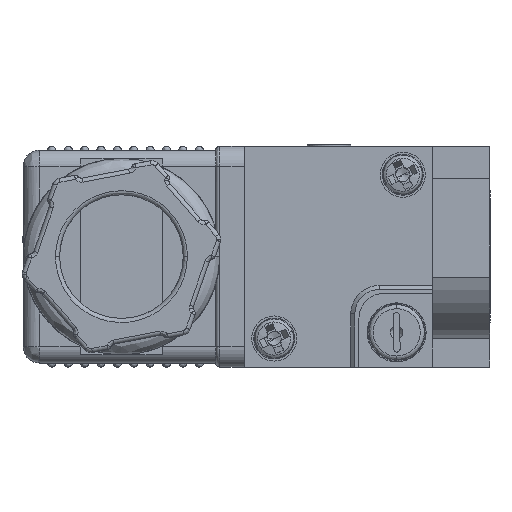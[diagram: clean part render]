
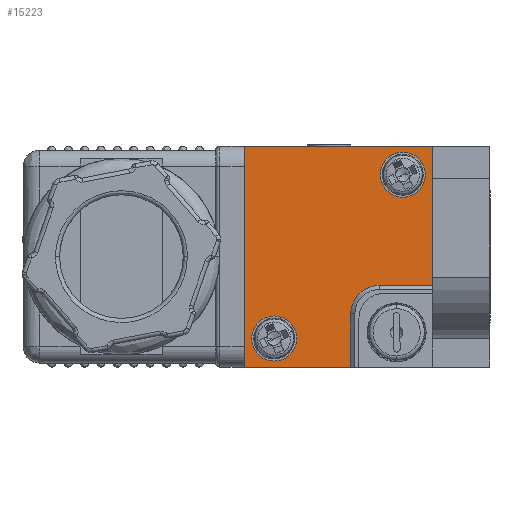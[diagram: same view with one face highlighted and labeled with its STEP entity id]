
A CAD part, left-side view. The second image highlights one B-rep face of the part: STEP entity #15223.
In plain terms, the highlighted planar face has unit normal (-1, 0, 0) as drawn and (0, 0, 1) by its records, which use the part's own axes.
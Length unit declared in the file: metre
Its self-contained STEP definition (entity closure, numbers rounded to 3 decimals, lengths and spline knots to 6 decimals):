
#115 = CARTESIAN_POINT ( 'NONE',  ( -0.00725, 0.04035, 0.006 ) ) ;
#187 = VECTOR ( 'NONE', #599, 1. ) ;
#599 = DIRECTION ( 'NONE',  ( 0., -1., 0. ) ) ;
#649 = CIRCLE ( 'NONE', #15646, 0.0035 ) ;
#650 = CARTESIAN_POINT ( 'NONE',  ( 0.01275, 0.02465, 0.006 ) ) ;
#827 = CARTESIAN_POINT ( 'NONE',  ( -0.007, 0.0275, 0.006 ) ) ;
#1175 = CIRCLE ( 'NONE', #23378, 0.00275 ) ;
#1239 = PLANE ( 'NONE',  #5194 ) ;
#1345 = LINE ( 'NONE', #6920, #6182 ) ;
#1400 = AXIS2_PLACEMENT_3D ( 'NONE', #11898, #26417, #14001 ) ;
#1612 = CARTESIAN_POINT ( 'NONE',  ( 0., 0.044, 0.006 ) ) ;
#1720 = EDGE_CURVE ( 'NONE', #21377, #8494, #6357, .T. ) ;
#2159 = AXIS2_PLACEMENT_3D ( 'NONE', #15428, #15483, #15515 ) ;
#2773 = EDGE_CURVE ( 'NONE', #8494, #21377, #1175, .T. ) ;
#2797 = VERTEX_POINT ( 'NONE', #17983 ) ;
#2908 = DIRECTION ( 'NONE',  ( 0., 1., 0. ) ) ;
#2999 = EDGE_CURVE ( 'NONE', #5146, #19647, #20661, .T. ) ;
#3331 = DIRECTION ( 'NONE',  ( 1., 0., 0. ) ) ;
#4411 = EDGE_CURVE ( 'NONE', #18673, #2797, #7284, .T. ) ;
#5146 = VERTEX_POINT ( 'NONE', #22956 ) ;
#5194 = AXIS2_PLACEMENT_3D ( 'NONE', #19854, #15742, #3331 ) ;
#5304 = ORIENTED_EDGE ( 'NONE', *, *, #2773, .T. ) ;
#5440 = DIRECTION ( 'NONE',  ( 1., 0., 0. ) ) ;
#5529 = FACE_BOUND ( 'NONE', #5605, .T. ) ;
#5578 = VERTEX_POINT ( 'NONE', #23132 ) ;
#5605 = EDGE_LOOP ( 'NONE', ( #13662, #10501 ) ) ;
#5617 = VECTOR ( 'NONE', #26043, 1. ) ;
#5644 = LINE ( 'NONE', #23462, #187 ) ;
#5708 = ORIENTED_EDGE ( 'NONE', *, *, #11292, .T. ) ;
#5789 = CARTESIAN_POINT ( 'NONE',  ( -0.0135, 0.031, 0.006 ) ) ;
#5881 = VERTEX_POINT ( 'NONE', #25261 ) ;
#6182 = VECTOR ( 'NONE', #15390, 1. ) ;
#6320 = CARTESIAN_POINT ( 'NONE',  ( -0.0135, 0.044, 0.006 ) ) ;
#6357 = CIRCLE ( 'NONE', #17058, 0.00275 ) ;
#6510 = CARTESIAN_POINT ( 'NONE',  ( 0.01, 0.02465, 0.006 ) ) ;
#6867 = DIRECTION ( 'NONE',  ( 0., 0., -1. ) ) ;
#6920 = CARTESIAN_POINT ( 'NONE',  ( 0., 0.021, 0.006 ) ) ;
#7043 = ORIENTED_EDGE ( 'NONE', *, *, #18013, .T. ) ;
#7221 = EDGE_CURVE ( 'NONE', #5578, #5881, #5644, .T. ) ;
#7284 = CIRCLE ( 'NONE', #2159, 0.00275 ) ;
#7319 = CARTESIAN_POINT ( 'NONE',  ( 0., 0.031, 0.006 ) ) ;
#7505 = CARTESIAN_POINT ( 'NONE',  ( 0.00725, 0.02465, 0.006 ) ) ;
#7935 = EDGE_CURVE ( 'NONE', #10463, #14351, #11193, .T. ) ;
#8494 = VERTEX_POINT ( 'NONE', #650 ) ;
#9226 = ORIENTED_EDGE ( 'NONE', *, *, #7935, .T. ) ;
#10223 = EDGE_LOOP ( 'NONE', ( #7043, #5708, #9226, #14463, #13293, #23463, #23635 ) ) ;
#10365 = LINE ( 'NONE', #1612, #17191 ) ;
#10463 = VERTEX_POINT ( 'NONE', #5789 ) ;
#10501 = ORIENTED_EDGE ( 'NONE', *, *, #15843, .F. ) ;
#10777 = CARTESIAN_POINT ( 'NONE',  ( -0.0135, 0.0325, 0.006 ) ) ;
#11088 = FACE_BOUND ( 'NONE', #20867, .T. ) ;
#11193 = LINE ( 'NONE', #7319, #5617 ) ;
#11292 = EDGE_CURVE ( 'NONE', #16013, #10463, #24212, .T. ) ;
#11898 = CARTESIAN_POINT ( 'NONE',  ( -0.01, 0.04035, 0.006 ) ) ;
#13293 = ORIENTED_EDGE ( 'NONE', *, *, #7221, .T. ) ;
#13662 = ORIENTED_EDGE ( 'NONE', *, *, #4411, .F. ) ;
#14001 = DIRECTION ( 'NONE',  ( 1., 0., 0. ) ) ;
#14351 = VERTEX_POINT ( 'NONE', #15356 ) ;
#14463 = ORIENTED_EDGE ( 'NONE', *, *, #25425, .T. ) ;
#15223 = ADVANCED_FACE ( 'NONE', ( #5529, #11088, #22152 ), #1239, .T. ) ;
#15332 = DIRECTION ( 'NONE',  ( 0., 0., -1. ) ) ;
#15356 = CARTESIAN_POINT ( 'NONE',  ( -0.007, 0.031, 0.006 ) ) ;
#15390 = DIRECTION ( 'NONE',  ( 1., 0., 0. ) ) ;
#15428 = CARTESIAN_POINT ( 'NONE',  ( -0.01, 0.04035, 0.006 ) ) ;
#15483 = DIRECTION ( 'NONE',  ( 0., 0., 1. ) ) ;
#15515 = DIRECTION ( 'NONE',  ( 1., 0., 0. ) ) ;
#15646 = AXIS2_PLACEMENT_3D ( 'NONE', #827, #15332, #2908 ) ;
#15742 = DIRECTION ( 'NONE',  ( 0., 0., 1. ) ) ;
#15843 = EDGE_CURVE ( 'NONE', #2797, #18673, #25750, .T. ) ;
#16013 = VERTEX_POINT ( 'NONE', #6320 ) ;
#16283 = DIRECTION ( 'NONE',  ( -1., 0., 0. ) ) ;
#17058 = AXIS2_PLACEMENT_3D ( 'NONE', #6510, #6867, #5440 ) ;
#17191 = VECTOR ( 'NONE', #16283, 1. ) ;
#17636 = CARTESIAN_POINT ( 'NONE',  ( 0.01, 0.02465, 0.006 ) ) ;
#17705 = DIRECTION ( 'NONE',  ( 0., 0., -1. ) ) ;
#17728 = DIRECTION ( 'NONE',  ( 1., 0., 0. ) ) ;
#17898 = ORIENTED_EDGE ( 'NONE', *, *, #1720, .T. ) ;
#17983 = CARTESIAN_POINT ( 'NONE',  ( -0.01275, 0.04035, 0.006 ) ) ;
#18013 = EDGE_CURVE ( 'NONE', #19647, #16013, #10365, .T. ) ;
#18644 = VECTOR ( 'NONE', #21171, 1. ) ;
#18673 = VERTEX_POINT ( 'NONE', #115 ) ;
#19647 = VERTEX_POINT ( 'NONE', #24741 ) ;
#19854 = CARTESIAN_POINT ( 'NONE',  ( -0.0135, 0.021, 0.006 ) ) ;
#20661 = LINE ( 'NONE', #24031, #24593 ) ;
#20867 = EDGE_LOOP ( 'NONE', ( #5304, #17898 ) ) ;
#21171 = DIRECTION ( 'NONE',  ( 0., -1., 0. ) ) ;
#21377 = VERTEX_POINT ( 'NONE', #7505 ) ;
#22152 = FACE_OUTER_BOUND ( 'NONE', #10223, .T. ) ;
#22208 = DIRECTION ( 'NONE',  ( 0., 1., 0. ) ) ;
#22249 = EDGE_CURVE ( 'NONE', #5881, #5146, #1345, .T. ) ;
#22956 = CARTESIAN_POINT ( 'NONE',  ( 0.0135, 0.021, 0.006 ) ) ;
#23132 = CARTESIAN_POINT ( 'NONE',  ( -0.0035, 0.0275, 0.006 ) ) ;
#23378 = AXIS2_PLACEMENT_3D ( 'NONE', #17636, #17705, #17728 ) ;
#23462 = CARTESIAN_POINT ( 'NONE',  ( -0.0035, 0.0325, 0.006 ) ) ;
#23463 = ORIENTED_EDGE ( 'NONE', *, *, #22249, .T. ) ;
#23635 = ORIENTED_EDGE ( 'NONE', *, *, #2999, .T. ) ;
#24031 = CARTESIAN_POINT ( 'NONE',  ( 0.0135, 0.0325, 0.006 ) ) ;
#24212 = LINE ( 'NONE', #10777, #18644 ) ;
#24593 = VECTOR ( 'NONE', #22208, 1. ) ;
#24741 = CARTESIAN_POINT ( 'NONE',  ( 0.0135, 0.044, 0.006 ) ) ;
#25261 = CARTESIAN_POINT ( 'NONE',  ( -0.0035, 0.021, 0.006 ) ) ;
#25425 = EDGE_CURVE ( 'NONE', #14351, #5578, #649, .T. ) ;
#25750 = CIRCLE ( 'NONE', #1400, 0.00275 ) ;
#26043 = DIRECTION ( 'NONE',  ( 1., 0., 0. ) ) ;
#26417 = DIRECTION ( 'NONE',  ( 0., 0., 1. ) ) ;
